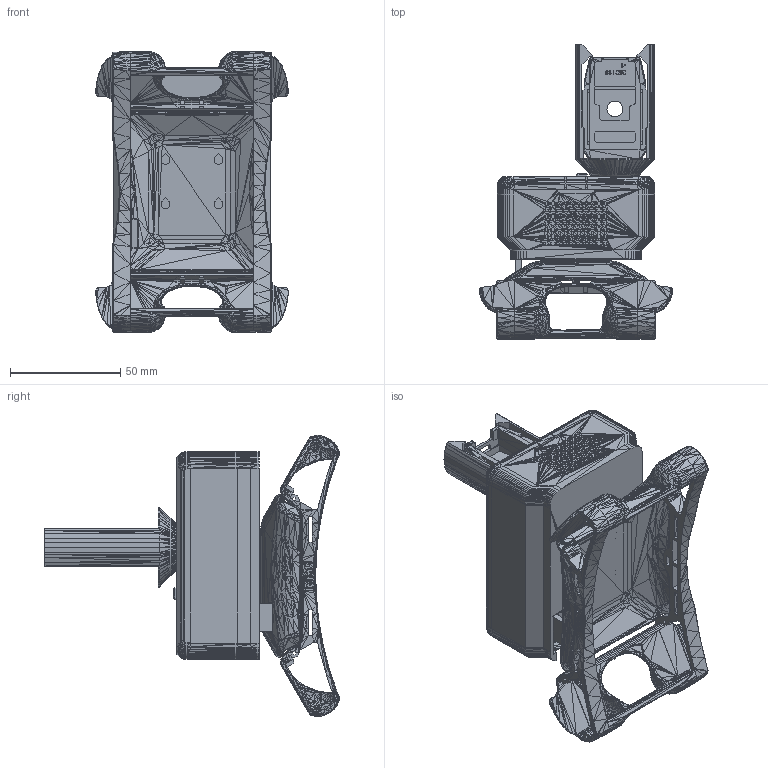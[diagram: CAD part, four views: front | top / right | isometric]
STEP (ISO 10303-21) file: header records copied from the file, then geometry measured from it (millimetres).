
FILE_DESCRIPTION(('Open CASCADE Model'),'2;1');
FILE_NAME('bittle_pi_addon_assembly','2026-10-18T11:51:08',('Author'),( 'Open CASCADE'),'Open CASCADE STEP processor 8.0','build123d', 'Unknown');
FILE_SCHEMA(('AUTOMOTIVE_DESIGN { 1 0 10303 214 1 1 1 1 }'));
Length unit declared in the file: millimetre
Products named in the file (22): bittle_pi_addon_assembly; shoulder_right; shoulder_left; front_plate; rear_plate_mirror; cover; pod_body; pod_panel; pod_button; pod_camera_mount; camera; pizero; pisugar_s; battery; sd_card; pi_plugs; biboard_header; biboard_plug; speaker; amp_ns4168; mic_sph0645; pegs
Assembly tree (21 placements, depth 2):
  bittle_pi_addon_assembly
    shoulder_right
    shoulder_left
    front_plate
    rear_plate_mirror
    cover
    pod_body
    pod_panel
    pod_button
    pod_camera_mount
    camera
    pizero
    pisugar_s
    battery
    sd_card
    pi_plugs
    biboard_header
    biboard_plug
    speaker
    amp_ns4168
    mic_sph0645
    pegs
Bounding box: 87.39 x 133.42 x 127.29 mm (x, y, z)
Volume: 129369.6 mm3; surface area: 130871.7 mm2
Topology: 27 solids, 30 shells, 29546 faces, 53188 edges, 23826 vertices
Faces by surface type: plane 29526, cylinder 16, cone 4
Entity records: 1317382 total; most frequent: CARTESIAN_POINT 245746, DIRECTION 186074, LINE 126846, VECTOR 126846, ORIENTED_EDGE 106392, PCURVE 106392, DEFINITIONAL_REPRESENTATION 106392, EDGE_CURVE 53197
